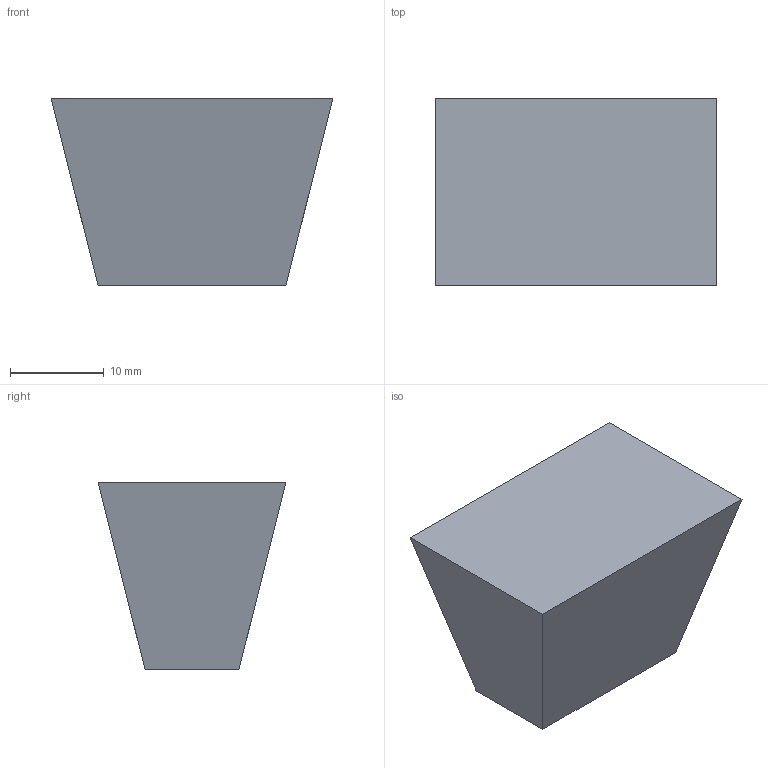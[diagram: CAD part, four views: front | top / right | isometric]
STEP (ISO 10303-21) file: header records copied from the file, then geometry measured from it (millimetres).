
FILE_DESCRIPTION(('FreeCAD Model'),'2;1');
FILE_NAME('/home/alexandre/Bureau/Cours-FreeCAD/Exercices/Exo-6.step', '2016-05-29T16:18:15',('Almisuifre'),(''), 'Open CASCADE STEP processor 6.8','FreeCAD','Unknown');
FILE_SCHEMA(('AUTOMOTIVE_DESIGN_CC2 { 1 2 10303 214 -1 1 5 4 }'));
Length unit declared in the file: millimetre
Products named in the file (2): ASSEMBLY; Loft
Assembly tree (1 placements, depth 2):
  ASSEMBLY
    Loft
Bounding box: 30 x 20 x 20 mm (x, y, z)
Volume: 7666.7 mm3; surface area: 2449.2 mm2
Topology: 1 solids, 1 shells, 6 faces, 12 edges, 8 vertices
Faces by surface type: bspline 4, plane 2
Entity records: 343 total; most frequent: CARTESIAN_POINT 72, DIRECTION 36, LINE 28, VECTOR 28, ORIENTED_EDGE 24, PCURVE 24, DEFINITIONAL_REPRESENTATION 24, EDGE_CURVE 12
